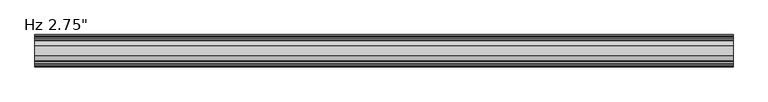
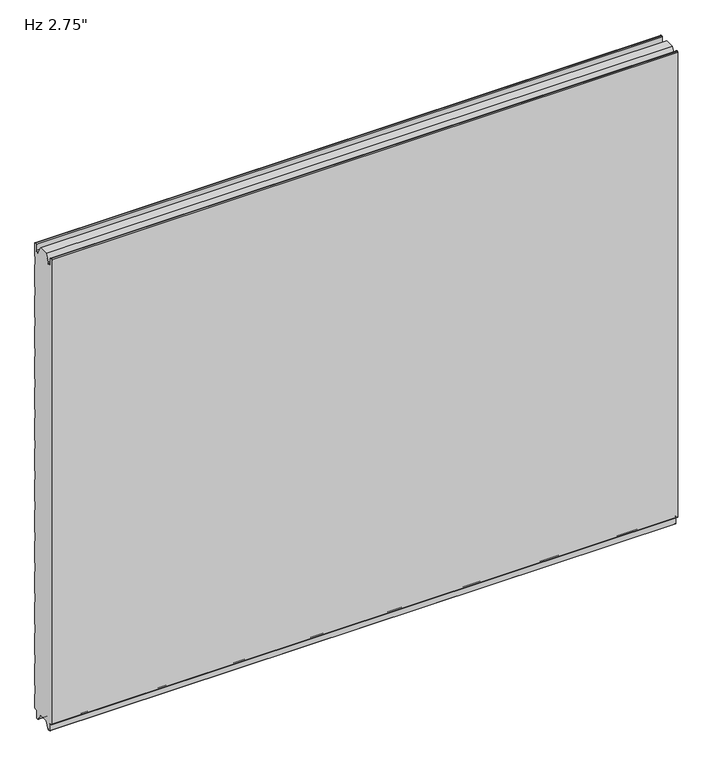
"""IFC4 building model written with IfcOpenShell, lengths in millimetres: plate geometry."""

from ifc_helpers import new_model, si_unit, frame, origin, place, context, project, spatial, polyline, circle_curve, source, transform, mapped, element, save
from ifc_brep_helpers import plane_surface, cylinder_surface, revolved_surface, advanced_brep


def plate_f405e83f(model_context):
    return source(origin(), model_context, "Body", "AdvancedBrep", [
        advanced_brep(
        [(-730.0, -66.9227194, 3.8499499), (-730.0, -68.8999935, 5.8272239), (-730.0, -68.9, 1150.8100652), (-730.0, -66.9227315, 1152.7873337), (-730.0, -65.8806329, 1152.7873337), (-730.0, -63.9033643, 1150.8100652), (-730.0, -63.9033643, 1136.6216802), (-730.0, -61.3154878, 1134.0338036), (-730.0, -56.9950697, 1134.0338036), (-730.0, -56.4060762, 1133.4253365), (-730.0, -56.4060762, 1131.0482432), (-730.0, -55.4066023, 1131.0482432), (-730.0, -55.4066023, 1136.4905123), (-730.0, -46.1490865, 1152.525), (-730.0, -23.7509179, 1152.525), (-730.0, -14.4934021, 1136.4905123), (-730.0, -14.4934021, 1131.0482432), (-730.0, -13.4939282, 1131.0482432), (-730.0, -13.4939282, 1133.4253365), (-730.0, -12.9049347, 1134.0338036), (-730.0, -8.5845165, 1134.0338036), (-730.0, -5.99664, 1136.6216802), (-730.0, -5.99664, 1150.8100652), (-730.0, -4.0193715, 1152.7873337), (-730.0, -2.9772729, 1152.7873337), (-730.0, -1.0000044, 1150.8100652), (-730.0, -1.0000044, 1118.6385351), (-730.0, -2.1911595, 1117.5660142), (-730.0, -2.1911595, 1097.7830195), (-730.0, -1.0, 1096.7104947), (-730.0, -1.0, 1043.0159187), (-730.0, -2.1911595, 1041.9433939), (-730.0, -2.1911595, 1022.1603992), (-730.0, -1.0, 1021.0878744), (-730.0, -1.0, 967.3932985), (-730.0, -2.1911595, 966.3207736), (-730.0, -2.1911595, 946.537779), (-730.0, -1.0, 945.4652541), (-730.0, -1.0, 891.7706782), (-730.0, -2.1911595, 890.6981534), (-730.0, -2.1911595, 870.9151587), (-730.0, -1.0, 869.8426339), (-730.0, -1.0, 816.148058), (-730.0, -2.1911595, 815.0755331), (-730.0, -2.1911595, 795.2925384), (-730.0, -1.0, 794.2200136), (-730.0, -1.0, 740.5254377), (-730.0, -2.1911595, 739.4529129), (-730.0, -2.1911595, 719.6699182), (-730.0, -1.0, 718.5973933), (-730.0, -1.0, 664.9028174), (-730.0, -2.1911595, 663.8302926), (-730.0, -2.1911595, 644.0472979), (-730.0, -1.0, 642.9747731), (-730.0, -1.0, 589.2801972), (-730.0, -2.1911595, 588.2076723), (-730.0, -2.1911595, 568.4246776), (-730.0, -1.0, 567.3521528), (-730.0, -1.0, 513.6575769), (-730.0, -2.1911595, 512.5850521), (-730.0, -2.1911595, 492.8020574), (-730.0, -1.0, 491.7295325), (-730.0, -1.0, 438.0349566), (-730.0, -2.1911595, 436.9624318), (-730.0, -2.1911595, 417.1794371), (-730.0, -1.0, 416.1069123), (-730.0, -1.0, 362.4123364), (-730.0, -2.1911595, 361.3398115), (-730.0, -2.1911595, 341.5568169), (-730.0, -1.0, 340.484292), (-730.0, -1.0, 286.7897161), (-730.0, -2.1911595, 285.7171913), (-730.0, -2.1911595, 265.9341966), (-730.0, -1.0, 264.8616718), (-730.0, -1.0, 211.1670958), (-730.0, -2.1911595, 210.094571), (-730.0, -2.1911595, 190.3115763), (-730.0, -1.0, 189.2390515), (-730.0, -1.0, 135.5444756), (-730.0, -2.1911595, 134.4719507), (-730.0, -2.1911595, 114.6889561), (-730.0, -1.0, 113.6164312), (-730.0, -1.0, 59.9218553), (-730.0, -2.1911595, 58.8493305), (-730.0, -2.1911595, 39.0663358), (-730.0, -1.0000109, 37.993811), (-730.0, -1.0000109, 5.8272239), (-730.0, -2.9772849, 3.8499499), (-730.0, -5.2691749, 3.8499499), (-730.0, -9.246442, -0.1273173), (-730.0, -9.246442, -15.7237417), (-730.0, -9.8343189, -16.3116186), (-730.0, -12.9058679, -16.3116186), (-730.0, -13.4937446, -15.723742), (-730.0, -13.4937446, -13.3687064), (-730.0, -14.4937446, -13.3687064), (-730.0, -14.4937446, -15.6582851), (-730.0, -23.7509179, 0.0), (-730.0, -46.1490865, 0.0), (-730.0, -55.4062598, -15.6582851), (-730.0, -55.4062598, -13.3687064), (-730.0, -56.4062598, -13.3687064), (-730.0, -56.4062598, -15.723742), (-730.0, -56.9941365, -16.3116186), (-730.0, -60.0656854, -16.3116186), (-730.0, -60.6535623, -15.7237417), (-730.0, -60.6535623, -0.1273173), (-730.0, -64.6308295, 3.8499499), (730.0, -66.9227194, 3.8499499), (730.0, -64.6308295, 3.8499499), (730.0, -60.6535623, -0.1273173), (730.0, -60.6535623, -15.7237417), (730.0, -60.0656854, -16.3116186), (730.0, -56.9941365, -16.3116186), (730.0, -56.4062598, -15.723742), (730.0, -56.4062598, -13.3687064), (730.0, -55.4062598, -13.3687064), (730.0, -55.4062598, -15.6582851), (730.0, -46.1490865, 0.0), (730.0, -23.7509179, 0.0), (730.0, -14.4937446, -15.6582851), (730.0, -14.4937446, -13.3687064), (730.0, -13.4937446, -13.3687064), (730.0, -13.4937446, -15.723742), (730.0, -12.9058679, -16.3116186), (730.0, -9.8343189, -16.3116186), (730.0, -9.246442, -15.7237417), (730.0, -9.246442, -0.1273173), (730.0, -5.2691749, 3.8499499), (730.0, -2.9772849, 3.8499499), (730.0, -1.0000109, 5.8272239), (730.0, -1.0000109, 37.993811), (730.0, -2.1911595, 39.0663358), (730.0, -2.1911595, 58.8493305), (730.0, -1.0, 59.9218553), (730.0, -1.0, 113.6164312), (730.0, -2.1911595, 114.6889561), (730.0, -2.1911595, 134.4719507), (730.0, -1.0, 135.5444756), (730.0, -1.0, 189.2390515), (730.0, -2.1911595, 190.3115763), (730.0, -2.1911595, 210.094571), (730.0, -1.0, 211.1670958), (730.0, -1.0, 264.8616718), (730.0, -2.1911595, 265.9341966), (730.0, -2.1911595, 285.7171913), (730.0, -1.0, 286.7897161), (730.0, -1.0, 340.484292), (730.0, -2.1911595, 341.5568169), (730.0, -2.1911595, 361.3398115), (730.0, -1.0, 362.4123364), (730.0, -1.0, 416.1069123), (730.0, -2.1911595, 417.1794371), (730.0, -2.1911595, 436.9624318), (730.0, -1.0, 438.0349566), (730.0, -1.0, 491.7295325), (730.0, -2.1911595, 492.8020574), (730.0, -2.1911595, 512.5850521), (730.0, -1.0, 513.6575769), (730.0, -1.0, 567.3521528), (730.0, -2.1911595, 568.4246776), (730.0, -2.1911595, 588.2076723), (730.0, -1.0, 589.2801972), (730.0, -1.0, 642.9747731), (730.0, -2.1911595, 644.0472979), (730.0, -2.1911595, 663.8302926), (730.0, -1.0, 664.9028174), (730.0, -1.0, 718.5973933), (730.0, -2.1911595, 719.6699182), (730.0, -2.1911595, 739.4529129), (730.0, -1.0, 740.5254377), (730.0, -1.0, 794.2200136), (730.0, -2.1911595, 795.2925384), (730.0, -2.1911595, 815.0755331), (730.0, -1.0, 816.148058), (730.0, -1.0, 869.8426339), (730.0, -2.1911595, 870.9151587), (730.0, -2.1911595, 890.6981534), (730.0, -1.0, 891.7706782), (730.0, -1.0, 945.4652541), (730.0, -2.1911595, 946.537779), (730.0, -2.1911595, 966.3207736), (730.0, -1.0, 967.3932985), (730.0, -1.0, 1021.0878744), (730.0, -2.1911595, 1022.1603992), (730.0, -2.1911595, 1041.9433939), (730.0, -1.0, 1043.0159187), (730.0, -1.0, 1096.7104947), (730.0, -2.1911595, 1097.7830195), (730.0, -2.1911595, 1117.5660142), (730.0, -1.0000044, 1118.6385351), (730.0, -1.0000044, 1150.8100652), (730.0, -2.9772729, 1152.7873337), (730.0, -4.0193715, 1152.7873337), (730.0, -5.99664, 1150.8100652), (730.0, -5.99664, 1136.6216802), (730.0, -8.5845165, 1134.0338036), (730.0, -12.9049347, 1134.0338036), (730.0, -13.4939282, 1133.4253365), (730.0, -13.4939282, 1131.0482432), (730.0, -14.4934021, 1131.0482432), (730.0, -14.4934021, 1136.4905123), (730.0, -23.7509179, 1152.525), (730.0, -46.1490865, 1152.525), (730.0, -55.4066023, 1136.4905123), (730.0, -55.4066023, 1131.0482432), (730.0, -56.4060762, 1131.0482432), (730.0, -56.4060762, 1133.4253365), (730.0, -56.9950697, 1134.0338036), (730.0, -61.3154878, 1134.0338036), (730.0, -63.9033643, 1136.6216802), (730.0, -63.9033643, 1150.8100652), (730.0, -65.8806329, 1152.7873337), (730.0, -66.9227315, 1152.7873337), (730.0, -68.9, 1150.8100652), (730.0, -68.9, 5.8272239)],
        [
            (0, 1, circle_curve(frame((-730.0, -66.9227194, 5.8272239), z_axis=(-1.0, 0.0, 0.0), x_axis=(0.0, 0.0, -1.0)), 1.977274)),
            (1, 2),
            (2, 3, circle_curve(frame((-730.0, -66.9227315, 1150.8100652), z_axis=(-1.0, 0.0, 0.0), x_axis=(0.0, 0.0, -1.0)), 1.9772685)),
            (3, 4),
            (4, 5, circle_curve(frame((-730.0, -65.8806329, 1150.8100652), z_axis=(-1.0, 0.0, 0.0), x_axis=(0.0, 0.0, -1.0)), 1.9772685)),
            (5, 6),
            (6, 7, circle_curve(frame((-730.0, -61.3154878, 1136.6216802), z_axis=(1.0, 0.0, 0.0), x_axis=(0.0, 0.0, -1.0)), 2.5878765)),
            (7, 8),
            (8, 9, circle_curve(frame((-730.0, -56.9950697, 1133.4444985), z_axis=(-1.0, 0.0, 0.0), x_axis=(0.0, 0.0, -1.0)), 0.5893051)),
            (9, 10),
            (10, 11),
            (11, 12),
            (12, 13),
            (13, 14),
            (14, 15),
            (15, 16),
            (16, 17),
            (17, 18),
            (18, 19, circle_curve(frame((-730.0, -12.9049347, 1133.4444985), z_axis=(-1.0, 0.0, 0.0), x_axis=(0.0, 1.0, 0.0)), 0.5893051)),
            (19, 20),
            (20, 21, circle_curve(frame((-730.0, -8.5845165, 1136.6216802), z_axis=(1.0, 0.0, 0.0), x_axis=(0.0, 1.0, 0.0)), 2.5878765)),
            (21, 22),
            (22, 23, circle_curve(frame((-730.0, -4.0193715, 1150.8100652), z_axis=(-1.0, 0.0, 0.0), x_axis=(0.0, 1.0, 0.0)), 1.9772685)),
            (23, 24),
            (24, 25, circle_curve(frame((-730.0, -2.9772729, 1150.8100652), z_axis=(-1.0, 0.0, 0.0), x_axis=(0.0, 1.0, 0.0)), 1.9772685)),
            (25, 26),
            (26, 27),
            (27, 28),
            (28, 29),
            (29, 30),
            (30, 31),
            (31, 32),
            (32, 33),
            (33, 34),
            (34, 35),
            (35, 36),
            (36, 37),
            (37, 38),
            (38, 39),
            (39, 40),
            (40, 41),
            (41, 42),
            (42, 43),
            (43, 44),
            (44, 45),
            (45, 46),
            (46, 47),
            (47, 48),
            (48, 49),
            (49, 50),
            (50, 51),
            (51, 52),
            (52, 53),
            (53, 54),
            (54, 55),
            (55, 56),
            (56, 57),
            (57, 58),
            (58, 59),
            (59, 60),
            (60, 61),
            (61, 62),
            (62, 63),
            (63, 64),
            (64, 65),
            (65, 66),
            (66, 67),
            (67, 68),
            (68, 69),
            (69, 70),
            (70, 71),
            (71, 72),
            (72, 73),
            (73, 74),
            (74, 75),
            (75, 76),
            (76, 77),
            (77, 78),
            (78, 79),
            (79, 80),
            (80, 81),
            (81, 82),
            (82, 83),
            (83, 84),
            (84, 85),
            (85, 86),
            (86, 87, circle_curve(frame((-730.0, -2.9772849, 5.8272239), z_axis=(-1.0, 0.0, 0.0), x_axis=(0.0, 1.0, 0.0)), 1.977274)),
            (87, 88),
            (88, 89, circle_curve(frame((-730.0, -5.2691749, -0.1273173), z_axis=(1.0, 0.0, 0.0), x_axis=(0.0, 1.0, 0.0)), 3.9772671)),
            (89, 90),
            (90, 91, circle_curve(frame((-730.0, -9.8343189, -15.7237417), z_axis=(-1.0, 0.0, 0.0), x_axis=(0.0, 1.0, 0.0)), 0.5878769)),
            (91, 92),
            (92, 93, circle_curve(frame((-730.0, -12.9058679, -15.723742), z_axis=(-1.0, 0.0, 0.0), x_axis=(0.0, 1.0, 0.0)), 0.5878766)),
            (93, 94),
            (94, 95),
            (95, 96),
            (96, 97),
            (97, 98),
            (98, 99),
            (99, 100),
            (100, 101),
            (101, 102),
            (102, 103, circle_curve(frame((-730.0, -56.9941365, -15.723742), z_axis=(-1.0, 0.0, 0.0), x_axis=(0.0, 0.0, -1.0)), 0.5878766)),
            (103, 104),
            (104, 105, circle_curve(frame((-730.0, -60.0656854, -15.7237417), z_axis=(-1.0, 0.0, 0.0), x_axis=(0.0, 0.0, -1.0)), 0.5878769)),
            (105, 106),
            (106, 107, circle_curve(frame((-730.0, -64.6308295, -0.1273173), z_axis=(1.0, 0.0, 0.0), x_axis=(0.0, 0.0, -1.0)), 3.9772671)),
            (107, 0),
            (108, 109),
            (109, 110, circle_curve(frame((730.0, -64.6308295, -0.1273173), z_axis=(-1.0, 0.0, 0.0), x_axis=(0.0, 0.0, -1.0)), 3.9772671)),
            (110, 111),
            (111, 112, circle_curve(frame((730.0, -60.0656854, -15.7237417), z_axis=(1.0, 0.0, 0.0), x_axis=(0.0, 0.0, -1.0)), 0.5878769)),
            (112, 113),
            (113, 114, circle_curve(frame((730.0, -56.9941365, -15.723742), z_axis=(1.0, 0.0, 0.0), x_axis=(0.0, 0.0, -1.0)), 0.5878766)),
            (114, 115),
            (115, 116),
            (116, 117),
            (117, 118),
            (118, 119),
            (119, 120),
            (120, 121),
            (121, 122),
            (122, 123),
            (123, 124, circle_curve(frame((730.0, -12.9058679, -15.723742), z_axis=(1.0, 0.0, 0.0), x_axis=(0.0, 1.0, 0.0)), 0.5878766)),
            (124, 125),
            (125, 126, circle_curve(frame((730.0, -9.8343189, -15.7237417), z_axis=(1.0, 0.0, 0.0), x_axis=(0.0, 1.0, 0.0)), 0.5878769)),
            (126, 127),
            (127, 128, circle_curve(frame((730.0, -5.2691749, -0.1273173), z_axis=(-1.0, 0.0, 0.0), x_axis=(0.0, 1.0, 0.0)), 3.9772671)),
            (128, 129),
            (129, 130, circle_curve(frame((730.0, -2.9772849, 5.8272239), z_axis=(1.0, 0.0, 0.0), x_axis=(0.0, 1.0, 0.0)), 1.977274)),
            (130, 131),
            (131, 132),
            (132, 133),
            (133, 134),
            (134, 135),
            (135, 136),
            (136, 137),
            (137, 138),
            (138, 139),
            (139, 140),
            (140, 141),
            (141, 142),
            (142, 143),
            (143, 144),
            (144, 145),
            (145, 146),
            (146, 147),
            (147, 148),
            (148, 149),
            (149, 150),
            (150, 151),
            (151, 152),
            (152, 153),
            (153, 154),
            (154, 155),
            (155, 156),
            (156, 157),
            (157, 158),
            (158, 159),
            (159, 160),
            (160, 161),
            (161, 162),
            (162, 163),
            (163, 164),
            (164, 165),
            (165, 166),
            (166, 167),
            (167, 168),
            (168, 169),
            (169, 170),
            (170, 171),
            (171, 172),
            (172, 173),
            (173, 174),
            (174, 175),
            (175, 176),
            (176, 177),
            (177, 178),
            (178, 179),
            (179, 180),
            (180, 181),
            (181, 182),
            (182, 183),
            (183, 184),
            (184, 185),
            (185, 186),
            (186, 187),
            (187, 188),
            (188, 189),
            (189, 190),
            (190, 191),
            (191, 192, circle_curve(frame((730.0, -2.9772729, 1150.8100652), z_axis=(1.0, 0.0, 0.0), x_axis=(0.0, 1.0, 0.0)), 1.9772685)),
            (192, 193),
            (193, 194, circle_curve(frame((730.0, -4.0193715, 1150.8100652), z_axis=(1.0, 0.0, 0.0), x_axis=(0.0, 1.0, 0.0)), 1.9772685)),
            (194, 195),
            (195, 196, circle_curve(frame((730.0, -8.5845165, 1136.6216802), z_axis=(-1.0, 0.0, 0.0), x_axis=(0.0, 1.0, 0.0)), 2.5878765)),
            (196, 197),
            (197, 198, circle_curve(frame((730.0, -12.9049347, 1133.4444985), z_axis=(1.0, 0.0, 0.0), x_axis=(0.0, 1.0, 0.0)), 0.5893051)),
            (198, 199),
            (199, 200),
            (200, 201),
            (201, 202),
            (202, 203),
            (203, 204),
            (204, 205),
            (205, 206),
            (206, 207),
            (207, 208, circle_curve(frame((730.0, -56.9950697, 1133.4444985), z_axis=(1.0, 0.0, 0.0), x_axis=(0.0, 0.0, -1.0)), 0.5893051)),
            (208, 209),
            (209, 210, circle_curve(frame((730.0, -61.3154878, 1136.6216802), z_axis=(-1.0, 0.0, 0.0), x_axis=(0.0, 0.0, -1.0)), 2.5878765)),
            (210, 211),
            (211, 212, circle_curve(frame((730.0, -65.8806329, 1150.8100652), z_axis=(1.0, 0.0, 0.0), x_axis=(0.0, 0.0, -1.0)), 1.9772685)),
            (212, 213),
            (213, 214, circle_curve(frame((730.0, -66.9227315, 1150.8100652), z_axis=(1.0, 0.0, 0.0), x_axis=(0.0, 0.0, -1.0)), 1.9772685)),
            (214, 215),
            (215, 108, circle_curve(frame((730.0, -66.9227194, 5.8272239), z_axis=(1.0, 0.0, 0.0), x_axis=(0.0, 0.0, -1.0)), 1.977274)),
            (27, 189),
            (188, 28),
            (26, 190),
            (25, 191),
            (24, 192),
            (23, 193),
            (22, 194),
            (21, 195),
            (20, 196),
            (19, 197),
            (18, 198),
            (17, 199),
            (16, 200),
            (15, 201),
            (14, 202),
            (96, 120),
            (119, 97),
            (95, 121),
            (94, 122),
            (93, 123),
            (92, 124),
            (91, 125),
            (90, 126),
            (89, 127),
            (88, 128),
            (87, 129),
            (86, 130),
            (85, 131),
            (84, 132),
            (83, 133),
            (82, 134),
            (81, 135),
            (80, 136),
            (79, 137),
            (78, 138),
            (77, 139),
            (76, 140),
            (75, 141),
            (74, 142),
            (73, 143),
            (72, 144),
            (71, 145),
            (70, 146),
            (69, 147),
            (68, 148),
            (67, 149),
            (66, 150),
            (65, 151),
            (64, 152),
            (63, 153),
            (62, 154),
            (61, 155),
            (60, 156),
            (59, 157),
            (58, 158),
            (57, 159),
            (56, 160),
            (55, 161),
            (54, 162),
            (53, 163),
            (52, 164),
            (51, 165),
            (50, 166),
            (49, 167),
            (48, 168),
            (47, 169),
            (46, 170),
            (45, 171),
            (44, 172),
            (43, 173),
            (42, 174),
            (41, 175),
            (40, 176),
            (39, 177),
            (38, 178),
            (37, 179),
            (36, 180),
            (35, 181),
            (34, 182),
            (33, 183),
            (32, 184),
            (31, 185),
            (30, 186),
            (29, 187),
            (13, 203),
            (118, 98),
            (107, 109),
            (108, 0),
            (106, 110),
            (105, 111),
            (104, 112),
            (103, 113),
            (102, 114),
            (101, 115),
            (100, 116),
            (99, 117),
            (12, 204),
            (11, 205),
            (10, 206),
            (9, 207),
            (8, 208),
            (7, 209),
            (6, 210),
            (5, 211),
            (4, 212),
            (3, 213),
            (2, 214),
            (1, 215),
        ],
        [
            plane_surface(frame((-730.0, -68.9, 576.2625), z_axis=(-1.0, 0.0, 0.0), x_axis=(0.0, -1.0, 0.0))),
            plane_surface(frame((730.0, -68.9, 576.2625), z_axis=(1.0, 0.0, 0.0), x_axis=(0.0, -1.0, 0.0))),
            plane_surface(frame((-730.0, -2.1911595, 1097.7830195), z_axis=(0.0, 1.0, 0.0), x_axis=(1.0, 0.0, 0.0))),
            plane_surface(frame((-730.0, -2.1911595, 1117.5660142), z_axis=(0.0, 0.669130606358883, -0.7431448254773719), x_axis=(1.0, 0.0, 0.0))),
            plane_surface(frame((-730.0, -1.0000044, 1118.6385351), z_axis=(0.0, 1.0, 0.0), x_axis=(1.0, 0.0, 0.0))),
            cylinder_surface(frame((-730.0, -2.9772729, 1150.8100652), z_axis=(-1.0, 0.0, 0.0), x_axis=(0.0, 1.0, 0.0)), 1.9772685),
            plane_surface(frame((-730.0, -2.9772729, 1152.7873337), z_axis=(0.0, 0.0, 1.0), x_axis=(1.0, 0.0, 0.0))),
            cylinder_surface(frame((-730.0, -4.0193715, 1150.8100652), z_axis=(-1.0, 0.0, 0.0), x_axis=(0.0, 1.0, 0.0)), 1.9772685),
            plane_surface(frame((-730.0, -5.99664, 1150.8100652), z_axis=(0.0, -1.0, 0.0), x_axis=(1.0, 0.0, 0.0))),
            revolved_surface(polyline([(730.0, -5.996639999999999, 1136.6216802), (-730.0, -5.996639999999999, 1136.6216802)]), (-730.0, -8.5845165, 1136.6216802), (1.0, 0.0, 0.0)),
            plane_surface(frame((-730.0, -8.5845165, 1134.0338036), z_axis=(0.0, 0.0, 1.0), x_axis=(1.0, 0.0, 0.0))),
            cylinder_surface(frame((-730.0, -12.9049347, 1133.4444985), z_axis=(-1.0, 0.0, 0.0), x_axis=(0.0, 1.0, 0.0)), 0.5893051),
            plane_surface(frame((-730.0, -13.4939282, 1133.4253365), z_axis=(0.0, -1.0, 0.0), x_axis=(1.0, 0.0, 0.0))),
            plane_surface(frame((-730.0, -13.4939282, 1131.0482432), z_axis=(0.0, 0.0, 1.0), x_axis=(1.0, 0.0, 0.0))),
            plane_surface(frame((-730.0, -14.4934021, 1131.0482432), z_axis=(0.0, 1.0, 0.0), x_axis=(1.0, 0.0, 0.0))),
            plane_surface(frame((-730.0, -14.4934021, 1136.4905123), z_axis=(0.0, 0.8660254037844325, 0.5000000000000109), x_axis=(1.0, 0.0, 0.0))),
            plane_surface(frame((-730.0, -23.7509179, 0.0), z_axis=(0.0, -0.8608169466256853, -0.5089147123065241), x_axis=(1.0, 0.0, 0.0))),
            plane_surface(frame((-730.0, -14.4937446, -15.6582851), z_axis=(0.0, 1.0, 0.0), x_axis=(1.0, 0.0, 0.0))),
            plane_surface(frame((-730.0, -14.4937446, -13.3687064), z_axis=(0.0, 0.0, -1.0), x_axis=(1.0, 0.0, 0.0))),
            plane_surface(frame((-730.0, -13.4937446, -13.3687064), z_axis=(0.0, -1.0, 0.0), x_axis=(1.0, 0.0, 0.0))),
            cylinder_surface(frame((-730.0, -12.9058679, -15.723742), z_axis=(-1.0, 0.0, 0.0), x_axis=(0.0, 1.0, 0.0)), 0.5878766),
            plane_surface(frame((-730.0, -12.9058679, -16.3116186), z_axis=(0.0, 0.0, -1.0), x_axis=(1.0, 0.0, 0.0))),
            cylinder_surface(frame((-730.0, -9.8343189, -15.7237417), z_axis=(-1.0, 0.0, 0.0), x_axis=(0.0, 1.0, 0.0)), 0.5878769),
            plane_surface(frame((-730.0, -9.246442, -15.7237417), z_axis=(0.0, 1.0, 0.0), x_axis=(1.0, 0.0, 0.0))),
            revolved_surface(polyline([(730.0, -1.2919078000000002, -0.1273173), (-730.0, -1.2919078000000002, -0.1273173)]), (-730.0, -5.2691749, -0.1273173), (1.0, 0.0, 0.0)),
            plane_surface(frame((-730.0, -5.2691749, 3.8499499), z_axis=(0.0, 0.0, -1.0), x_axis=(1.0, 0.0, 0.0))),
            cylinder_surface(frame((-730.0, -2.9772849, 5.8272239), z_axis=(-1.0, 0.0, 0.0), x_axis=(0.0, 1.0, 0.0)), 1.977274),
            plane_surface(frame((-730.0, -1.0000109, 5.8272239), z_axis=(0.0, 1.0, 0.0), x_axis=(1.0, 0.0, 0.0))),
            plane_surface(frame((-730.0, -1.0000109, 37.993811), z_axis=(0.0, 0.6691339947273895, 0.7431417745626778), x_axis=(1.0, 0.0, 0.0))),
            plane_surface(frame((-730.0, -2.1911595, 39.0663358), z_axis=(0.0, 1.0, 0.0), x_axis=(1.0, 0.0, 0.0))),
            plane_surface(frame((-730.0, -2.1911595, 58.8493305), z_axis=(0.0, 0.6691306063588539, -0.7431448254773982), x_axis=(1.0, 0.0, 0.0))),
            plane_surface(frame((-730.0, -1.0, 59.9218553), z_axis=(0.0, 1.0, 0.0), x_axis=(1.0, 0.0, 0.0))),
            plane_surface(frame((-730.0, -1.0, 113.6164312), z_axis=(0.0, 0.6691306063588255, 0.7431448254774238), x_axis=(1.0, 0.0, 0.0))),
            plane_surface(frame((-730.0, -2.1911595, 114.6889561), z_axis=(0.0, 1.0, 0.0), x_axis=(1.0, 0.0, 0.0))),
            plane_surface(frame((-730.0, -2.1911595, 134.4719507), z_axis=(0.0, 0.6691306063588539, -0.7431448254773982), x_axis=(1.0, 0.0, 0.0))),
            plane_surface(frame((-730.0, -1.0, 135.5444756), z_axis=(0.0, 1.0, 0.0), x_axis=(1.0, 0.0, 0.0))),
            plane_surface(frame((-730.0, -1.0, 189.2390515), z_axis=(0.0, 0.669130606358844, 0.743144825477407), x_axis=(1.0, 0.0, 0.0))),
            plane_surface(frame((-730.0, -2.1911595, 190.3115763), z_axis=(0.0, 1.0, 0.0), x_axis=(1.0, 0.0, 0.0))),
            plane_surface(frame((-730.0, -2.1911595, 210.094571), z_axis=(0.0, 0.6691306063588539, -0.7431448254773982), x_axis=(1.0, 0.0, 0.0))),
            plane_surface(frame((-730.0, -1.0, 211.1670958), z_axis=(0.0, 1.0, 0.0), x_axis=(1.0, 0.0, 0.0))),
            plane_surface(frame((-730.0, -1.0, 264.8616718), z_axis=(0.0, 0.6691306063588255, 0.7431448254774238), x_axis=(1.0, 0.0, 0.0))),
            plane_surface(frame((-730.0, -2.1911595, 265.9341966), z_axis=(0.0, 1.0, 0.0), x_axis=(1.0, 0.0, 0.0))),
            plane_surface(frame((-730.0, -2.1911595, 285.7171913), z_axis=(0.0, 0.6691306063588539, -0.7431448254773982), x_axis=(1.0, 0.0, 0.0))),
            plane_surface(frame((-730.0, -1.0, 286.7897161), z_axis=(0.0, 1.0, 0.0), x_axis=(1.0, 0.0, 0.0))),
            plane_surface(frame((-730.0, -1.0, 340.484292), z_axis=(0.0, 0.669130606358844, 0.743144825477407), x_axis=(1.0, 0.0, 0.0))),
            plane_surface(frame((-730.0, -2.1911595, 341.5568169), z_axis=(0.0, 1.0, 0.0), x_axis=(1.0, 0.0, 0.0))),
            plane_surface(frame((-730.0, -2.1911595, 361.3398115), z_axis=(0.0, 0.6691306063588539, -0.7431448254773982), x_axis=(1.0, 0.0, 0.0))),
            plane_surface(frame((-730.0, -1.0, 362.4123364), z_axis=(0.0, 1.0, 0.0), x_axis=(1.0, 0.0, 0.0))),
            plane_surface(frame((-730.0, -1.0, 416.1069123), z_axis=(0.0, 0.669130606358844, 0.743144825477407), x_axis=(1.0, 0.0, 0.0))),
            plane_surface(frame((-730.0, -2.1911595, 417.1794371), z_axis=(0.0, 1.0, 0.0), x_axis=(1.0, 0.0, 0.0))),
            plane_surface(frame((-730.0, -2.1911595, 436.9624318), z_axis=(0.0, 0.6691306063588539, -0.7431448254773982), x_axis=(1.0, 0.0, 0.0))),
            plane_surface(frame((-730.0, -1.0, 438.0349566), z_axis=(0.0, 1.0, 0.0), x_axis=(1.0, 0.0, 0.0))),
            plane_surface(frame((-730.0, -1.0, 491.7295325), z_axis=(0.0, 0.6691306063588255, 0.7431448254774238), x_axis=(1.0, 0.0, 0.0))),
            plane_surface(frame((-730.0, -2.1911595, 492.8020574), z_axis=(0.0, 1.0, 0.0), x_axis=(1.0, 0.0, 0.0))),
            plane_surface(frame((-730.0, -2.1911595, 512.5850521), z_axis=(0.0, 0.6691306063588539, -0.7431448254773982), x_axis=(1.0, 0.0, 0.0))),
            plane_surface(frame((-730.0, -1.0, 513.6575769), z_axis=(0.0, 1.0, 0.0), x_axis=(1.0, 0.0, 0.0))),
            plane_surface(frame((-730.0, -1.0, 567.3521528), z_axis=(0.0, 0.669130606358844, 0.743144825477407), x_axis=(1.0, 0.0, 0.0))),
            plane_surface(frame((-730.0, -2.1911595, 568.4246776), z_axis=(0.0, 1.0, 0.0), x_axis=(1.0, 0.0, 0.0))),
            plane_surface(frame((-730.0, -2.1911595, 588.2076723), z_axis=(0.0, 0.6691306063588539, -0.7431448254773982), x_axis=(1.0, 0.0, 0.0))),
            plane_surface(frame((-730.0, -1.0, 589.2801972), z_axis=(0.0, 1.0, 0.0), x_axis=(1.0, 0.0, 0.0))),
            plane_surface(frame((-730.0, -1.0, 642.9747731), z_axis=(0.0, 0.6691306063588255, 0.7431448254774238), x_axis=(1.0, 0.0, 0.0))),
            plane_surface(frame((-730.0, -2.1911595, 644.0472979), z_axis=(0.0, 1.0, 0.0), x_axis=(1.0, 0.0, 0.0))),
            plane_surface(frame((-730.0, -2.1911595, 663.8302926), z_axis=(0.0, 0.6691306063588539, -0.7431448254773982), x_axis=(1.0, 0.0, 0.0))),
            plane_surface(frame((-730.0, -1.0, 664.9028174), z_axis=(0.0, 1.0, 0.0), x_axis=(1.0, 0.0, 0.0))),
            plane_surface(frame((-730.0, -1.0, 718.5973933), z_axis=(0.0, 0.669130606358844, 0.743144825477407), x_axis=(1.0, 0.0, 0.0))),
            plane_surface(frame((-730.0, -2.1911595, 719.6699182), z_axis=(0.0, 1.0, 0.0), x_axis=(1.0, 0.0, 0.0))),
            plane_surface(frame((-730.0, -2.1911595, 739.4529129), z_axis=(0.0, 0.6691306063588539, -0.7431448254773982), x_axis=(1.0, 0.0, 0.0))),
            plane_surface(frame((-730.0, -1.0, 740.5254377), z_axis=(0.0, 1.0, 0.0), x_axis=(1.0, 0.0, 0.0))),
            plane_surface(frame((-730.0, -1.0, 794.2200136), z_axis=(0.0, 0.6691306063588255, 0.7431448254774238), x_axis=(1.0, 0.0, 0.0))),
            plane_surface(frame((-730.0, -2.1911595, 795.2925384), z_axis=(0.0, 1.0, 0.0), x_axis=(1.0, 0.0, 0.0))),
            plane_surface(frame((-730.0, -2.1911595, 815.0755331), z_axis=(0.0, 0.6691306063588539, -0.7431448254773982), x_axis=(1.0, 0.0, 0.0))),
            plane_surface(frame((-730.0, -1.0, 816.148058), z_axis=(0.0, 1.0, 0.0), x_axis=(1.0, 0.0, 0.0))),
            plane_surface(frame((-730.0, -1.0, 869.8426339), z_axis=(0.0, 0.669130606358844, 0.743144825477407), x_axis=(1.0, 0.0, 0.0))),
            plane_surface(frame((-730.0, -2.1911595, 870.9151587), z_axis=(0.0, 1.0, 0.0), x_axis=(1.0, 0.0, 0.0))),
            plane_surface(frame((-730.0, -2.1911595, 890.6981534), z_axis=(0.0, 0.6691306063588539, -0.7431448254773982), x_axis=(1.0, 0.0, 0.0))),
            plane_surface(frame((-730.0, -1.0, 891.7706782), z_axis=(0.0, 1.0, 0.0), x_axis=(1.0, 0.0, 0.0))),
            plane_surface(frame((-730.0, -1.0, 945.4652541), z_axis=(0.0, 0.669130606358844, 0.743144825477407), x_axis=(1.0, 0.0, 0.0))),
            plane_surface(frame((-730.0, -2.1911595, 946.537779), z_axis=(0.0, 1.0, 0.0), x_axis=(1.0, 0.0, 0.0))),
            plane_surface(frame((-730.0, -2.1911595, 966.3207736), z_axis=(0.0, 0.6691306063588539, -0.7431448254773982), x_axis=(1.0, 0.0, 0.0))),
            plane_surface(frame((-730.0, -1.0, 967.3932985), z_axis=(0.0, 1.0, 0.0), x_axis=(1.0, 0.0, 0.0))),
            plane_surface(frame((-730.0, -1.0, 1021.0878744), z_axis=(0.0, 0.669130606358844, 0.743144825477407), x_axis=(1.0, 0.0, 0.0))),
            plane_surface(frame((-730.0, -2.1911595, 1022.1603992), z_axis=(0.0, 1.0, 0.0), x_axis=(1.0, 0.0, 0.0))),
            plane_surface(frame((-730.0, -2.1911595, 1041.9433939), z_axis=(0.0, 0.6691306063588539, -0.7431448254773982), x_axis=(1.0, 0.0, 0.0))),
            plane_surface(frame((-730.0, -1.0, 1043.0159187), z_axis=(0.0, 1.0, 0.0), x_axis=(1.0, 0.0, 0.0))),
            plane_surface(frame((-730.0, -1.0, 1096.7104947), z_axis=(0.0, 0.669130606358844, 0.743144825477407), x_axis=(1.0, 0.0, 0.0))),
            plane_surface(frame((-730.0, -46.1490865, 1152.525), z_axis=(0.0, 0.0, 1.0), x_axis=(-1.0, 0.0, 0.0))),
            plane_surface(frame((-730.0, -46.1490865, 0.0), z_axis=(0.0, 0.0, -1.0), x_axis=(1.0, 0.0, 0.0))),
            plane_surface(frame((-730.0, -66.9227194, 3.8499499), z_axis=(0.0, 0.0, -1.0), x_axis=(1.0, 0.0, 0.0))),
            revolved_surface(polyline([(730.0, -64.6308295, -4.1045844), (-730.0, -64.6308295, -4.1045844)]), (-730.0, -64.6308295, -0.1273173), (1.0, 0.0, 0.0)),
            plane_surface(frame((-730.0, -60.6535623, -0.1273173), z_axis=(0.0, -1.0, 0.0), x_axis=(1.0, 0.0, 0.0))),
            cylinder_surface(frame((-730.0, -60.0656854, -15.7237417), z_axis=(-1.0, 0.0, 0.0), x_axis=(0.0, 0.0, -1.0)), 0.5878769),
            plane_surface(frame((-730.0, -60.0656854, -16.3116186), z_axis=(0.0, 0.0, -1.0), x_axis=(1.0, 0.0, 0.0))),
            cylinder_surface(frame((-730.0, -56.9941365, -15.723742), z_axis=(-1.0, 0.0, 0.0), x_axis=(0.0, 0.0, -1.0)), 0.5878766),
            plane_surface(frame((-730.0, -56.4062598, -15.723742), z_axis=(0.0, 1.0, 0.0), x_axis=(1.0, 0.0, 0.0))),
            plane_surface(frame((-730.0, -56.4062598, -13.3687064), z_axis=(0.0, 0.0, -1.0), x_axis=(1.0, 0.0, 0.0))),
            plane_surface(frame((-730.0, -55.4062598, -13.3687064), z_axis=(0.0, -1.0, 0.0), x_axis=(1.0, 0.0, 0.0))),
            plane_surface(frame((-730.0, -55.4062598, -15.6582851), z_axis=(0.0, 0.8608169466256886, -0.5089147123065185), x_axis=(1.0, 0.0, 0.0))),
            plane_surface(frame((-730.0, -46.1490865, 1152.525), z_axis=(0.0, -0.8660254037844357, 0.5000000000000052), x_axis=(1.0, 0.0, 0.0))),
            plane_surface(frame((-730.0, -55.4066023, 1136.4905123), z_axis=(0.0, -1.0, 0.0), x_axis=(1.0, 0.0, 0.0))),
            plane_surface(frame((-730.0, -55.4066023, 1131.0482432), z_axis=(0.0, 0.0, 1.0), x_axis=(1.0, 0.0, 0.0))),
            plane_surface(frame((-730.0, -56.4060762, 1131.0482432), z_axis=(0.0, 1.0, 0.0), x_axis=(1.0, 0.0, 0.0))),
            cylinder_surface(frame((-730.0, -56.9950697, 1133.4444985), z_axis=(-1.0, 0.0, 0.0), x_axis=(0.0, 0.0, -1.0)), 0.5893051),
            plane_surface(frame((-730.0, -56.9950697, 1134.0338036), z_axis=(0.0, 0.0, 1.0), x_axis=(1.0, 0.0, 0.0))),
            revolved_surface(polyline([(730.0, -61.3154878, 1134.0338037), (-730.0, -61.3154878, 1134.0338037)]), (-730.0, -61.3154878, 1136.6216802), (1.0, 0.0, 0.0)),
            plane_surface(frame((-730.0, -63.9033643, 1136.6216802), z_axis=(0.0, 1.0, 0.0), x_axis=(1.0, 0.0, 0.0))),
            cylinder_surface(frame((-730.0, -65.8806329, 1150.8100652), z_axis=(-1.0, 0.0, 0.0), x_axis=(0.0, 0.0, -1.0)), 1.9772685),
            plane_surface(frame((-730.0, -65.8806329, 1152.7873337), z_axis=(0.0, 0.0, 1.0), x_axis=(1.0, 0.0, 0.0))),
            cylinder_surface(frame((-730.0, -66.9227315, 1150.8100652), z_axis=(-1.0, 0.0, 0.0), x_axis=(0.0, 0.0, -1.0)), 1.9772685),
            plane_surface(frame((-730.0, -68.9, 1150.8100652), z_axis=(0.0, -1.0, 0.0), x_axis=(1.0, 0.0, 0.0))),
            cylinder_surface(frame((-730.0, -66.9227194, 5.8272239), z_axis=(-1.0, 0.0, 0.0), x_axis=(0.0, 0.0, -1.0)), 1.977274),
        ],
        [
            (0, [[1, 2, 3, 4, 5, 6, 7, 8, 9, 10, 11, 12, 13, 14, 15, 16, 17, 18, 19, 20, 21, 22, 23, 24, 25, 26, 27, 28, 29, 30, 31, 32, 33, 34, 35, 36, 37, 38, 39, 40, 41, 42, 43, 44, 45, 46, 47, 48, 49, 50, 51, 52, 53, 54, 55, 56, 57, 58, 59, 60, 61, 62, 63, 64, 65, 66, 67, 68, 69, 70, 71, 72, 73, 74, 75, 76, 77, 78, 79, 80, 81, 82, 83, 84, 85, 86, 87, 88, 89, 90, 91, 92, 93, 94, 95, 96, 97, 98, 99, 100, 101, 102, 103, 104, 105, 106, 107, 108]]),
            (1, [[109, 110, 111, 112, 113, 114, 115, 116, 117, 118, 119, 120, 121, 122, 123, 124, 125, 126, 127, 128, 129, 130, 131, 132, 133, 134, 135, 136, 137, 138, 139, 140, 141, 142, 143, 144, 145, 146, 147, 148, 149, 150, 151, 152, 153, 154, 155, 156, 157, 158, 159, 160, 161, 162, 163, 164, 165, 166, 167, 168, 169, 170, 171, 172, 173, 174, 175, 176, 177, 178, 179, 180, 181, 182, 183, 184, 185, 186, 187, 188, 189, 190, 191, 192, 193, 194, 195, 196, 197, 198, 199, 200, 201, 202, 203, 204, 205, 206, 207, 208, 209, 210, 211, 212, 213, 214, 215, 216]]),
            (2, [[217, -189, 218, -28]]),
            (3, [[219, -190, -217, -27]]),
            (4, [[220, -191, -219, -26]]),
            (5, [[221, -192, -220, -25]]),
            (6, [[222, -193, -221, -24]]),
            (7, [[223, -194, -222, -23]]),
            (8, [[224, -195, -223, -22]]),
            (9, [[225, -196, -224, -21]]),
            (10, [[226, -197, -225, -20]]),
            (11, [[227, -198, -226, -19]]),
            (12, [[228, -199, -227, -18]]),
            (13, [[229, -200, -228, -17]]),
            (14, [[230, -201, -229, -16]]),
            (15, [[231, -202, -230, -15]]),
            (16, [[232, -120, 233, -97]]),
            (17, [[234, -121, -232, -96]]),
            (18, [[235, -122, -234, -95]]),
            (19, [[236, -123, -235, -94]]),
            (20, [[237, -124, -236, -93]]),
            (21, [[238, -125, -237, -92]]),
            (22, [[239, -126, -238, -91]]),
            (23, [[240, -127, -239, -90]]),
            (24, [[241, -128, -240, -89]]),
            (25, [[242, -129, -241, -88]]),
            (26, [[243, -130, -242, -87]]),
            (27, [[244, -131, -243, -86]]),
            (28, [[245, -132, -244, -85]]),
            (29, [[246, -133, -245, -84]]),
            (30, [[247, -134, -246, -83]]),
            (31, [[248, -135, -247, -82]]),
            (32, [[249, -136, -248, -81]]),
            (33, [[250, -137, -249, -80]]),
            (34, [[251, -138, -250, -79]]),
            (35, [[252, -139, -251, -78]]),
            (36, [[253, -140, -252, -77]]),
            (37, [[254, -141, -253, -76]]),
            (38, [[255, -142, -254, -75]]),
            (39, [[256, -143, -255, -74]]),
            (40, [[257, -144, -256, -73]]),
            (41, [[258, -145, -257, -72]]),
            (42, [[259, -146, -258, -71]]),
            (43, [[260, -147, -259, -70]]),
            (44, [[261, -148, -260, -69]]),
            (45, [[262, -149, -261, -68]]),
            (46, [[263, -150, -262, -67]]),
            (47, [[264, -151, -263, -66]]),
            (48, [[265, -152, -264, -65]]),
            (49, [[266, -153, -265, -64]]),
            (50, [[267, -154, -266, -63]]),
            (51, [[268, -155, -267, -62]]),
            (52, [[269, -156, -268, -61]]),
            (53, [[270, -157, -269, -60]]),
            (54, [[271, -158, -270, -59]]),
            (55, [[272, -159, -271, -58]]),
            (56, [[273, -160, -272, -57]]),
            (57, [[274, -161, -273, -56]]),
            (58, [[275, -162, -274, -55]]),
            (59, [[276, -163, -275, -54]]),
            (60, [[277, -164, -276, -53]]),
            (61, [[278, -165, -277, -52]]),
            (62, [[279, -166, -278, -51]]),
            (63, [[280, -167, -279, -50]]),
            (64, [[281, -168, -280, -49]]),
            (65, [[282, -169, -281, -48]]),
            (66, [[283, -170, -282, -47]]),
            (67, [[284, -171, -283, -46]]),
            (68, [[285, -172, -284, -45]]),
            (69, [[286, -173, -285, -44]]),
            (70, [[287, -174, -286, -43]]),
            (71, [[288, -175, -287, -42]]),
            (72, [[289, -176, -288, -41]]),
            (73, [[290, -177, -289, -40]]),
            (74, [[291, -178, -290, -39]]),
            (75, [[292, -179, -291, -38]]),
            (76, [[293, -180, -292, -37]]),
            (77, [[294, -181, -293, -36]]),
            (78, [[295, -182, -294, -35]]),
            (79, [[296, -183, -295, -34]]),
            (80, [[297, -184, -296, -33]]),
            (81, [[298, -185, -297, -32]]),
            (82, [[299, -186, -298, -31]]),
            (83, [[300, -187, -299, -30]]),
            (84, [[-218, -188, -300, -29]]),
            (85, [[301, -203, -231, -14]]),
            (86, [[302, -98, -233, -119]]),
            (87, [[303, -109, 304, -108]]),
            (88, [[305, -110, -303, -107]]),
            (89, [[306, -111, -305, -106]]),
            (90, [[307, -112, -306, -105]]),
            (91, [[308, -113, -307, -104]]),
            (92, [[309, -114, -308, -103]]),
            (93, [[310, -115, -309, -102]]),
            (94, [[311, -116, -310, -101]]),
            (95, [[312, -117, -311, -100]]),
            (96, [[-302, -118, -312, -99]]),
            (97, [[313, -204, -301, -13]]),
            (98, [[314, -205, -313, -12]]),
            (99, [[315, -206, -314, -11]]),
            (100, [[316, -207, -315, -10]]),
            (101, [[317, -208, -316, -9]]),
            (102, [[318, -209, -317, -8]]),
            (103, [[319, -210, -318, -7]]),
            (104, [[320, -211, -319, -6]]),
            (105, [[321, -212, -320, -5]]),
            (106, [[322, -213, -321, -4]]),
            (107, [[323, -214, -322, -3]]),
            (108, [[324, -215, -323, -2]]),
            (109, [[-304, -216, -324, -1]]),
        ],
    ),
    ])


if __name__ == "__main__":
    model = new_model("IFC4")
    model_context = context("Model", 3, world=origin())
    ifc_project = project(units=[si_unit("LENGTHUNIT", "METRE", prefix="MILLI")], contexts=[model_context])
    site = spatial("IfcSite", under=ifc_project)
    building = spatial("IfcBuilding", under=site)
    placement = place(None, origin())
    plate_shape = plate_f405e83f(model_context)
    element("IfcPlate", 1, ObjectType="KIP-SLI-FLI-R19-CP-Hz-FL_SL : Hz 2.75\"", at=placement, inside=building, context=model_context, shape_type="MappedRepresentation", body=[
        mapped(plate_shape, transform((0.0, 0.0, 0.0), x_axis=(1.0, 0.0, 0.0), y_axis=(0.0, 1.0, 0.0), z_axis=(0.0, 0.0, 1.0))),
    ])
    save(model, "model.ifc")
